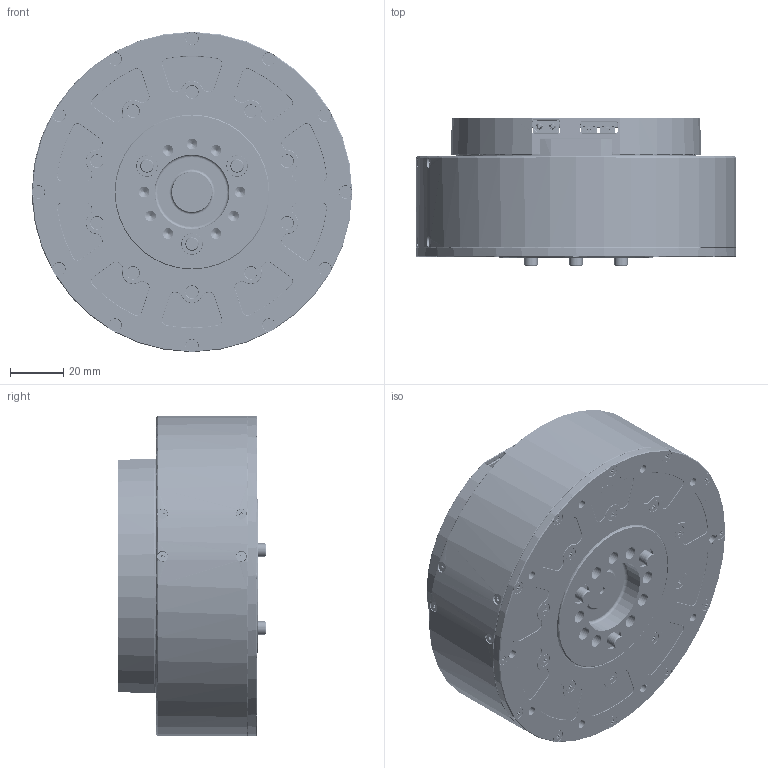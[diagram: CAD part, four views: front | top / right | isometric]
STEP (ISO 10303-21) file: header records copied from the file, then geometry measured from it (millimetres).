
FILE_DESCRIPTION (( 'STEP AP214' ), '1' );
FILE_NAME ('CP.BM.000081-P1010B-111 减速电机（外发）-.STEP', '2024-05-14T07:19:04', ( '003' ), ( '' ), 'SwSTEP 2.0', 'SolidWorks 2018', '' );
FILE_SCHEMA (( 'AUTOMOTIVE_DESIGN' ));
Length unit declared in the file: millimetre
Products named in the file (1): CP.BM.000081-P1010B-111 减速电机（外发）-
Bounding box: 120 x 55.7 x 120 mm (x, y, z)
Volume: 443154.8 mm3; surface area: 112498.1 mm2
Topology: 34 solids, 70 shells, 8967 faces, 23889 edges, 15459 vertices
Faces by surface type: plane 4957, cylinder 1725, bspline 1217, cone 755, torus 300, sphere 13
Entity records: 309299 total; most frequent: CARTESIAN_POINT 91913, ORIENTED_EDGE 47642, DIRECTION 41254, EDGE_CURVE 23821, VERTEX_POINT 15459, LINE 14486, VECTOR 14486, AXIS2_PLACEMENT_3D 13384
